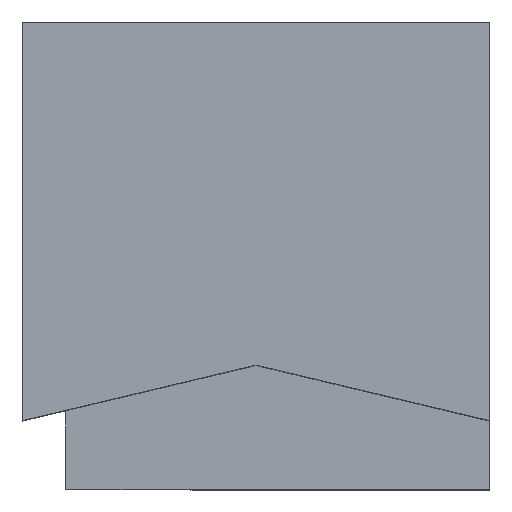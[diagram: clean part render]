
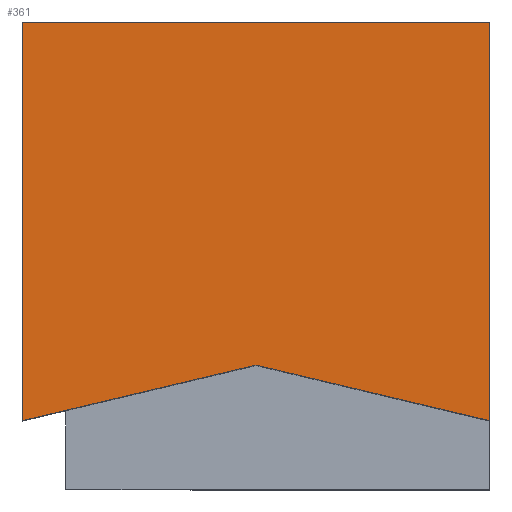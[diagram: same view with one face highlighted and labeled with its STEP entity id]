
A CAD part, top view. The second image highlights one B-rep face of the part: STEP entity #361.
In plain terms, the highlighted planar face has unit normal (0, 0, 1).
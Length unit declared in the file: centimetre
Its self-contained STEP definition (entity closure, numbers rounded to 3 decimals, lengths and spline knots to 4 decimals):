
#17 = VECTOR ( 'NONE', #136, 100. ) ;
#19 = CARTESIAN_POINT ( 'NONE',  ( 0., 1000., 1000. ) ) ;
#22 = EDGE_CURVE ( 'NONE', #179, #310, #68, .T. ) ;
#23 = EDGE_CURVE ( 'NONE', #339, #281, #291, .T. ) ;
#25 = DIRECTION ( 'NONE',  ( 1., 0., 0. ) ) ;
#34 = CARTESIAN_POINT ( 'NONE',  ( 0., 1000., 1000. ) ) ;
#41 = CARTESIAN_POINT ( 'NONE',  ( 1000., 1000., 1000. ) ) ;
#48 = LINE ( 'NONE', #19, #17 ) ;
#68 = LINE ( 'NONE', #41, #78 ) ;
#72 = VECTOR ( 'NONE', #75, 100. ) ;
#75 = DIRECTION ( 'NONE',  ( -0.973, -0.231, 0. ) ) ;
#78 = VECTOR ( 'NONE', #350, 100. ) ;
#85 = FACE_OUTER_BOUND ( 'NONE', #186, .T. ) ;
#88 = ORIENTED_EDGE ( 'NONE', *, *, #392, .F. ) ;
#91 = CARTESIAN_POINT ( 'NONE',  ( 0., 0., 1000. ) ) ;
#99 = DIRECTION ( 'NONE',  ( -1., 0., 0. ) ) ;
#110 = VECTOR ( 'NONE', #99, 100. ) ;
#136 = DIRECTION ( 'NONE',  ( 0., -1., 0. ) ) ;
#137 = CARTESIAN_POINT ( 'NONE',  ( 1000., 146.7388, 1000. ) ) ;
#138 = EDGE_CURVE ( 'NONE', #310, #365, #223, .T. ) ;
#139 = AXIS2_PLACEMENT_3D ( 'NONE', #91, #372, #25 ) ;
#148 = ORIENTED_EDGE ( 'NONE', *, *, #237, .T. ) ;
#176 = LINE ( 'NONE', #303, #286 ) ;
#179 = VERTEX_POINT ( 'NONE', #137 ) ;
#186 = EDGE_LOOP ( 'NONE', ( #241, #88, #284, #305, #148 ) ) ;
#206 = CARTESIAN_POINT ( 'NONE',  ( 1000., 1000., 1000. ) ) ;
#220 = CARTESIAN_POINT ( 'NONE',  ( 500., 265.4644, 1000. ) ) ;
#223 = LINE ( 'NONE', #384, #110 ) ;
#237 = EDGE_CURVE ( 'NONE', #365, #281, #48, .T. ) ;
#240 = DIRECTION ( 'NONE',  ( -0.973, 0.231, 0. ) ) ;
#241 = ORIENTED_EDGE ( 'NONE', *, *, #23, .F. ) ;
#281 = VERTEX_POINT ( 'NONE', #367 ) ;
#284 = ORIENTED_EDGE ( 'NONE', *, *, #22, .T. ) ;
#286 = VECTOR ( 'NONE', #240, 100. ) ;
#291 = LINE ( 'NONE', #220, #72 ) ;
#303 = CARTESIAN_POINT ( 'NONE',  ( 1000., 146.7388, 1000. ) ) ;
#305 = ORIENTED_EDGE ( 'NONE', *, *, #138, .T. ) ;
#307 = CARTESIAN_POINT ( 'NONE',  ( 500., 265.4644, 1000. ) ) ;
#309 = PLANE ( 'NONE',  #139 ) ;
#310 = VERTEX_POINT ( 'NONE', #206 ) ;
#339 = VERTEX_POINT ( 'NONE', #307 ) ;
#350 = DIRECTION ( 'NONE',  ( 0., 1., 0. ) ) ;
#361 = ADVANCED_FACE ( 'NONE', ( #85 ), #309, .T. ) ;
#365 = VERTEX_POINT ( 'NONE', #34 ) ;
#367 = CARTESIAN_POINT ( 'NONE',  ( 0., 146.7388, 1000. ) ) ;
#372 = DIRECTION ( 'NONE',  ( 0., 0., 1. ) ) ;
#384 = CARTESIAN_POINT ( 'NONE',  ( 0., 1000., 1000. ) ) ;
#392 = EDGE_CURVE ( 'NONE', #179, #339, #176, .T. ) ;
